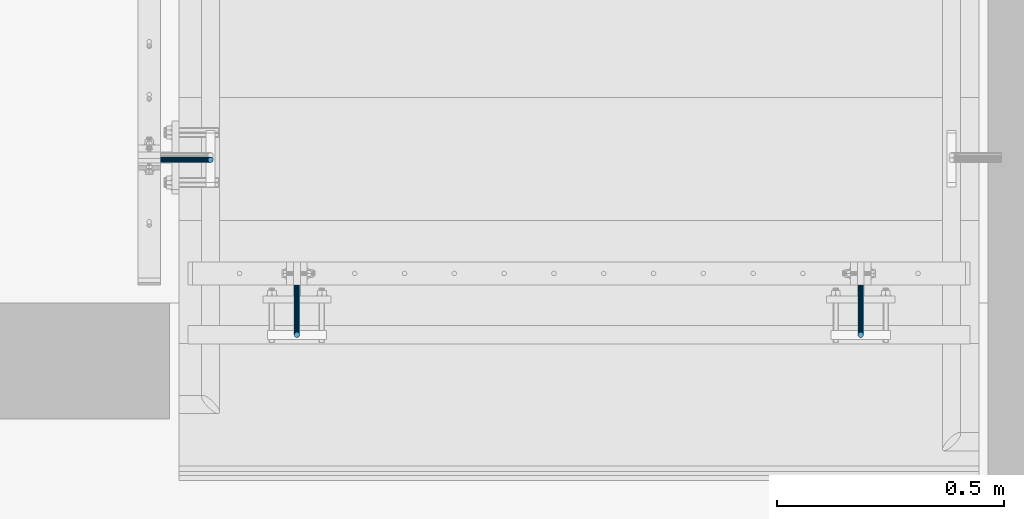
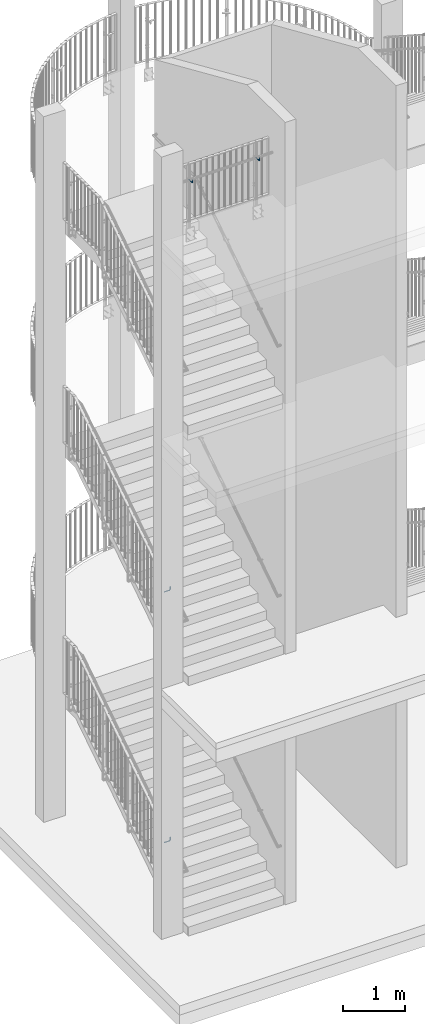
# One storey, part 128 of 296: 4 beams.
"""IFC2X3 building model written with IfcOpenShell, lengths in millimetres."""

from ifc_helpers import new_model, entity, si_unit, converted_unit, origin_with_axes, place, context, project, spatial, faceted_brep, material, element, save


model = new_model("IFC2X3")

# Units and contexts
model_context = context("Model", 3, precision=1e-09, world=origin_with_axes())
ifc_project = project(units=[si_unit("LENGTHUNIT", "METRE", prefix="MILLI"), si_unit("AREAUNIT", "SQUARE_METRE"), si_unit("VOLUMEUNIT", "CUBIC_METRE"), converted_unit("PLANEANGLEUNIT", "DEGREE", entity("IfcPlaneAngleMeasure", 0.01745329), si_unit("PLANEANGLEUNIT", "RADIAN"), dimensions=[0, 0, 0, 0, 0, 0, 0])], contexts=[model_context])

# Site, building, storey
site_placement = place(None, origin_with_axes())
site = spatial("IfcSite", under=ifc_project, at=site_placement, Name="TZD-S?d | Treppenhausgel?nder", CompositionType="ELEMENT")
building_placement = place(site_placement, origin_with_axes())
building = spatial("IfcBuilding", under=site, at=building_placement, Name="Struktur 1", CompositionType="ELEMENT")
storey_placement = place(building_placement, origin_with_axes())
storey = spatial("IfcBuildingStorey", under=building, at=storey_placement, Name="Default Storey", CompositionType="ELEMENT", Elevation=0.0)

# Beams
ifc_material = material(Name="S235JR")
beam_1_placement = place(None, origin_with_axes())
element("IfcBeam", 1, at=beam_1_placement, inside=storey, material=ifc_material, Name="-", ObjectType="-", context=model_context, shape_type="Brep", body=[
    faceted_brep([(1522.297514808, -3850.544277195, 14510.0), (1524.244054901, -3849.243640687, 14510.0), (1525.544691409, -3847.297100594, 14510.0), (1526.001414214, -3845.001, 14510.0), (1525.544691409, -3842.704899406, 14510.0), (1524.244054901, -3840.758359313, 14510.0), (1522.297514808, -3839.457722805, 14510.0), (1520.001414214, -3839.001, 14510.0), (1517.705313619, -3839.457722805, 14510.0), (1515.758773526, -3840.758359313, 14510.0), (1514.458137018, -3842.704899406, 14510.0), (1514.001414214, -3845.001, 14510.0), (1514.458137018, -3847.297100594, 14510.0), (1515.758773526, -3849.243640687, 14510.0), (1517.705313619, -3850.544277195, 14510.0), (1520.001414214, -3851.001, 14510.0), (1524.244054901, -3735.001, 14440.757359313), (1522.297514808, -3735.001, 14439.456722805), (1520.001414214, -3735.001, 14439.0), (1517.705313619, -3735.001, 14439.456722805), (1515.758773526, -3735.001, 14440.757359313), (1514.458137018, -3735.001, 14442.703899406), (1514.001414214, -3735.001, 14445.0), (1514.458137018, -3735.001, 14447.296100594), (1515.758773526, -3735.001, 14449.242640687), (1517.705313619, -3735.001, 14450.543277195), (1520.001414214, -3735.001, 14451.0), (1522.297514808, -3735.001, 14450.543277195), (1524.244054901, -3735.001, 14449.242640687), (1525.544691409, -3735.001, 14447.296100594), (1526.001414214, -3735.001, 14445.0), (1525.544691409, -3735.001, 14442.703899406), (1522.297514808, -3850.544277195, 14465.0), (1524.244054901, -3849.243640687, 14465.0), (1525.544691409, -3847.297100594, 14465.0), (1526.001414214, -3845.001, 14465.0), (1525.544691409, -3842.704899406, 14465.0), (1524.244054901, -3840.758359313, 14465.0), (1522.297514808, -3839.457722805, 14465.0), (1520.001414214, -3839.001, 14465.0), (1517.705313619, -3839.457722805, 14465.0), (1515.758773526, -3840.758359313, 14465.0), (1514.458137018, -3842.704899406, 14465.0), (1514.001414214, -3845.001, 14465.0), (1514.458137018, -3847.297100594, 14465.0), (1515.758773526, -3849.243640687, 14465.0), (1517.705313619, -3850.544277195, 14465.0), (1520.001414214, -3851.001, 14465.0), (1522.297514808, -3848.599910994, 14455.225011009), (1524.244054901, -3847.398279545, 14455.722743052), (1525.544691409, -3845.599910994, 14456.467651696), (1526.001414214, -3843.47859065, 14457.346331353), (1525.544691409, -3841.357270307, 14458.225011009), (1524.244054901, -3839.558901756, 14458.969919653), (1522.297514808, -3838.357270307, 14459.467651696), (1520.001414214, -3837.935313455, 14459.642431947), (1517.705313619, -3838.357270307, 14459.467651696), (1515.758773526, -3839.558901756, 14458.969919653), (1514.458137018, -3841.357270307, 14458.225011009), (1514.001414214, -3843.47859065, 14457.346331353), (1514.458137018, -3845.599910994, 14456.467651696), (1515.758773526, -3847.398279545, 14455.722743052), (1517.705313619, -3848.599910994, 14455.225011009), (1520.001414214, -3849.021867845, 14455.050230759), (1522.297514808, -3843.062824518, 14446.938175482), (1524.244054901, -3842.143135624, 14447.857864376), (1525.544691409, -3840.766723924, 14449.234276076), (1526.001414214, -3839.143135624, 14450.857864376), (1525.544691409, -3837.519547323, 14452.481452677), (1524.244054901, -3836.143135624, 14453.857864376), (1522.297514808, -3835.223446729, 14454.777553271), (1520.001414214, -3834.900494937, 14455.100505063), (1517.705313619, -3835.223446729, 14454.777553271), (1515.758773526, -3836.143135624, 14453.857864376), (1514.458137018, -3837.519547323, 14452.481452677), (1514.001414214, -3839.143135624, 14450.857864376), (1514.458137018, -3840.766723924, 14449.234276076), (1515.758773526, -3842.143135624, 14447.857864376), (1517.705313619, -3843.062824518, 14446.938175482), (1520.001414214, -3843.385776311, 14446.615223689), (1522.297514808, -3834.775988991, 14441.401089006), (1524.244054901, -3834.278256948, 14442.602720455), (1525.544691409, -3833.533348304, 14444.401089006), (1526.001414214, -3832.654668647, 14446.52240935), (1525.544691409, -3831.775988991, 14448.643729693), (1524.244054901, -3831.031080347, 14450.442098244), (1522.297514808, -3830.533348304, 14451.643729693), (1520.001414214, -3830.358568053, 14452.065686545), (1517.705313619, -3830.533348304, 14451.643729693), (1515.758773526, -3831.031080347, 14450.442098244), (1514.458137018, -3831.775988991, 14448.643729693), (1514.001414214, -3832.654668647, 14446.52240935), (1514.458137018, -3833.533348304, 14444.401089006), (1515.758773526, -3834.278256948, 14442.602720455), (1517.705313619, -3834.775988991, 14441.401089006), (1520.001414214, -3834.950769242, 14440.979132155), (1522.297514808, -3825.001, 14439.456722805), (1524.244054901, -3825.001, 14440.757359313), (1525.544691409, -3825.001, 14442.703899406), (1526.001414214, -3825.001, 14445.0), (1525.544691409, -3825.001, 14447.296100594), (1524.244054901, -3825.001, 14449.242640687), (1522.297514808, -3825.001, 14450.543277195), (1520.001414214, -3825.001, 14451.0), (1517.705313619, -3825.001, 14450.543277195), (1515.758773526, -3825.001, 14449.242640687), (1514.458137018, -3825.001, 14447.296100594), (1514.001414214, -3825.001, 14445.0), (1514.458137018, -3825.001, 14442.703899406), (1515.758773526, -3825.001, 14440.757359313), (1517.705313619, -3825.001, 14439.456722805), (1520.001414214, -3825.001, 14439.0)], [[[0, 1, 2, 3, 4, 5, 6, 7, 8, 9, 10, 11, 12, 13, 14, 15]], [[16, 17, 18, 19, 20, 21, 22, 23, 24, 25, 26, 27, 28, 29, 30, 31]], [[1, 0, 32, 33]], [[2, 1, 33, 34]], [[3, 2, 34, 35]], [[4, 3, 35, 36]], [[5, 4, 36, 37]], [[6, 5, 37, 38]], [[7, 6, 38, 39]], [[8, 7, 39, 40]], [[9, 8, 40, 41]], [[10, 9, 41, 42]], [[11, 10, 42, 43]], [[12, 11, 43, 44]], [[13, 12, 44, 45]], [[14, 13, 45, 46]], [[15, 14, 46, 47]], [[0, 15, 47, 32]], [[33, 32, 48, 49]], [[34, 33, 49, 50]], [[35, 34, 50, 51]], [[36, 35, 51, 52]], [[37, 36, 52, 53]], [[38, 37, 53, 54]], [[39, 38, 54, 55]], [[40, 39, 55, 56]], [[41, 40, 56, 57]], [[42, 41, 57, 58]], [[43, 42, 58, 59]], [[44, 43, 59, 60]], [[45, 44, 60, 61]], [[46, 45, 61, 62]], [[47, 46, 62, 63]], [[32, 47, 63, 48]], [[49, 48, 64, 65]], [[50, 49, 65, 66]], [[51, 50, 66, 67]], [[52, 51, 67, 68]], [[53, 52, 68, 69]], [[54, 53, 69, 70]], [[55, 54, 70, 71]], [[56, 55, 71, 72]], [[57, 56, 72, 73]], [[58, 57, 73, 74]], [[59, 58, 74, 75]], [[60, 59, 75, 76]], [[61, 60, 76, 77]], [[62, 61, 77, 78]], [[63, 62, 78, 79]], [[48, 63, 79, 64]], [[65, 64, 80, 81]], [[66, 65, 81, 82]], [[67, 66, 82, 83]], [[68, 67, 83, 84]], [[69, 68, 84, 85]], [[70, 69, 85, 86]], [[71, 70, 86, 87]], [[72, 71, 87, 88]], [[73, 72, 88, 89]], [[74, 73, 89, 90]], [[75, 74, 90, 91]], [[76, 75, 91, 92]], [[77, 76, 92, 93]], [[78, 77, 93, 94]], [[79, 78, 94, 95]], [[64, 79, 95, 80]], [[81, 80, 96, 97]], [[82, 81, 97, 98]], [[83, 82, 98, 99]], [[84, 83, 99, 100]], [[85, 84, 100, 101]], [[86, 85, 101, 102]], [[87, 86, 102, 103]], [[88, 87, 103, 104]], [[89, 88, 104, 105]], [[90, 89, 105, 106]], [[91, 90, 106, 107]], [[92, 91, 107, 108]], [[93, 92, 108, 109]], [[94, 93, 109, 110]], [[95, 94, 110, 111]], [[80, 95, 111, 96]], [[97, 96, 17, 16]], [[98, 97, 16, 31]], [[99, 98, 31, 30]], [[100, 99, 30, 29]], [[101, 100, 29, 28]], [[102, 101, 28, 27]], [[103, 102, 27, 26]], [[104, 103, 26, 25]], [[105, 104, 25, 24]], [[106, 105, 24, 23]], [[107, 106, 23, 22]], [[108, 107, 22, 21]], [[109, 108, 21, 20]], [[110, 109, 20, 19]], [[111, 110, 19, 18]], [[96, 111, 18, 17]]]),
])
beam_2_placement = place(None, origin_with_axes())
element("IfcBeam", 2, at=beam_2_placement, inside=storey, material=ifc_material, Name="-", ObjectType="-", context=model_context, shape_type="Brep", body=[
    faceted_brep([(275.7573593, -3849.243640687, 14510.0), (277.703899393, -3850.544277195, 14510.0), (279.999999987, -3851.001, 14510.0), (282.296100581, -3850.544277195, 14510.0), (284.242640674, -3849.243640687, 14510.0), (285.543277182, -3847.297100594, 14510.0), (285.999999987, -3845.001, 14510.0), (285.543277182, -3842.704899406, 14510.0), (284.242640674, -3840.758359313, 14510.0), (282.296100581, -3839.457722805, 14510.0), (279.999999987, -3839.001, 14510.0), (277.703899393, -3839.457722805, 14510.0), (275.7573593, -3840.758359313, 14510.0), (274.456722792, -3842.704899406, 14510.0), (273.999999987, -3845.001, 14510.0), (274.456722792, -3847.297100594, 14510.0), (277.703899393, -3735.001, 14439.456722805), (275.7573593, -3735.001, 14440.757359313), (274.456722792, -3735.001, 14442.703899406), (273.999999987, -3735.001, 14445.0), (274.456722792, -3735.001, 14447.296100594), (275.7573593, -3735.001, 14449.242640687), (277.703899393, -3735.001, 14450.543277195), (279.999999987, -3735.001, 14451.0), (282.296100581, -3735.001, 14450.543277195), (284.242640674, -3735.001, 14449.242640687), (285.543277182, -3735.001, 14447.296100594), (285.999999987, -3735.001, 14445.0), (285.543277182, -3735.001, 14442.703899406), (284.242640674, -3735.001, 14440.757359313), (282.296100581, -3735.001, 14439.456722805), (279.999999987, -3735.001, 14439.0), (275.7573593, -3849.243640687, 14465.0), (277.703899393, -3850.544277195, 14465.0), (274.456722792, -3847.297100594, 14465.0), (273.999999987, -3845.001, 14465.0), (274.456722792, -3842.704899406, 14465.0), (275.7573593, -3840.758359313, 14465.0), (277.703899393, -3839.457722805, 14465.0), (279.999999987, -3839.001, 14465.0), (282.296100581, -3839.457722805, 14465.0), (284.242640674, -3840.758359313, 14465.0), (285.543277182, -3842.704899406, 14465.0), (285.999999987, -3845.001, 14465.0), (285.543277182, -3847.297100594, 14465.0), (284.242640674, -3849.243640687, 14465.0), (282.296100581, -3850.544277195, 14465.0), (279.999999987, -3851.001, 14465.0), (275.7573593, -3847.398279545, 14455.722743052), (277.703899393, -3848.599910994, 14455.225011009), (274.456722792, -3845.599910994, 14456.467651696), (273.999999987, -3843.47859065, 14457.346331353), (274.456722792, -3841.357270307, 14458.225011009), (275.7573593, -3839.558901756, 14458.969919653), (277.703899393, -3838.357270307, 14459.467651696), (279.999999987, -3837.935313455, 14459.642431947), (282.296100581, -3838.357270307, 14459.467651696), (284.242640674, -3839.558901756, 14458.969919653), (285.543277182, -3841.357270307, 14458.225011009), (285.999999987, -3843.47859065, 14457.346331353), (285.543277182, -3845.599910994, 14456.467651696), (284.242640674, -3847.398279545, 14455.722743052), (282.296100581, -3848.599910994, 14455.225011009), (279.999999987, -3849.021867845, 14455.050230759), (275.7573593, -3842.143135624, 14447.857864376), (277.703899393, -3843.062824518, 14446.938175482), (274.456722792, -3840.766723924, 14449.234276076), (273.999999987, -3839.143135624, 14450.857864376), (274.456722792, -3837.519547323, 14452.481452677), (275.7573593, -3836.143135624, 14453.857864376), (277.703899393, -3835.223446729, 14454.777553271), (279.999999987, -3834.900494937, 14455.100505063), (282.296100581, -3835.223446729, 14454.777553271), (284.242640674, -3836.143135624, 14453.857864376), (285.543277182, -3837.519547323, 14452.481452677), (285.999999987, -3839.143135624, 14450.857864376), (285.543277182, -3840.766723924, 14449.234276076), (284.242640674, -3842.143135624, 14447.857864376), (282.296100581, -3843.062824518, 14446.938175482), (279.999999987, -3843.385776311, 14446.615223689), (275.7573593, -3834.278256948, 14442.602720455), (277.703899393, -3834.775988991, 14441.401089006), (274.456722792, -3833.533348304, 14444.401089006), (273.999999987, -3832.654668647, 14446.52240935), (274.456722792, -3831.775988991, 14448.643729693), (275.7573593, -3831.031080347, 14450.442098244), (277.703899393, -3830.533348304, 14451.643729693), (279.999999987, -3830.358568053, 14452.065686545), (282.296100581, -3830.533348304, 14451.643729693), (284.242640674, -3831.031080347, 14450.442098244), (285.543277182, -3831.775988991, 14448.643729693), (285.999999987, -3832.654668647, 14446.52240935), (285.543277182, -3833.533348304, 14444.401089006), (284.242640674, -3834.278256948, 14442.602720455), (282.296100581, -3834.775988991, 14441.401089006), (279.999999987, -3834.950769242, 14440.979132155), (275.7573593, -3825.001, 14440.757359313), (277.703899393, -3825.001, 14439.456722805), (274.456722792, -3825.001, 14442.703899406), (273.999999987, -3825.001, 14445.0), (274.456722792, -3825.001, 14447.296100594), (275.7573593, -3825.001, 14449.242640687), (277.703899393, -3825.001, 14450.543277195), (279.999999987, -3825.001, 14451.0), (282.296100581, -3825.001, 14450.543277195), (284.242640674, -3825.001, 14449.242640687), (285.543277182, -3825.001, 14447.296100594), (285.999999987, -3825.001, 14445.0), (285.543277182, -3825.001, 14442.703899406), (284.242640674, -3825.001, 14440.757359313), (282.296100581, -3825.001, 14439.456722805), (279.999999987, -3825.001, 14439.0)], [[[0, 1, 2, 3, 4, 5, 6, 7, 8, 9, 10, 11, 12, 13, 14, 15]], [[16, 17, 18, 19, 20, 21, 22, 23, 24, 25, 26, 27, 28, 29, 30, 31]], [[1, 0, 32, 33]], [[0, 15, 34, 32]], [[15, 14, 35, 34]], [[14, 13, 36, 35]], [[13, 12, 37, 36]], [[12, 11, 38, 37]], [[11, 10, 39, 38]], [[10, 9, 40, 39]], [[9, 8, 41, 40]], [[8, 7, 42, 41]], [[7, 6, 43, 42]], [[6, 5, 44, 43]], [[5, 4, 45, 44]], [[4, 3, 46, 45]], [[3, 2, 47, 46]], [[2, 1, 33, 47]], [[33, 32, 48, 49]], [[32, 34, 50, 48]], [[34, 35, 51, 50]], [[35, 36, 52, 51]], [[36, 37, 53, 52]], [[37, 38, 54, 53]], [[38, 39, 55, 54]], [[39, 40, 56, 55]], [[40, 41, 57, 56]], [[41, 42, 58, 57]], [[42, 43, 59, 58]], [[43, 44, 60, 59]], [[44, 45, 61, 60]], [[45, 46, 62, 61]], [[46, 47, 63, 62]], [[47, 33, 49, 63]], [[49, 48, 64, 65]], [[48, 50, 66, 64]], [[50, 51, 67, 66]], [[51, 52, 68, 67]], [[52, 53, 69, 68]], [[53, 54, 70, 69]], [[54, 55, 71, 70]], [[55, 56, 72, 71]], [[56, 57, 73, 72]], [[57, 58, 74, 73]], [[58, 59, 75, 74]], [[59, 60, 76, 75]], [[60, 61, 77, 76]], [[61, 62, 78, 77]], [[62, 63, 79, 78]], [[63, 49, 65, 79]], [[65, 64, 80, 81]], [[64, 66, 82, 80]], [[66, 67, 83, 82]], [[67, 68, 84, 83]], [[68, 69, 85, 84]], [[69, 70, 86, 85]], [[70, 71, 87, 86]], [[71, 72, 88, 87]], [[72, 73, 89, 88]], [[73, 74, 90, 89]], [[74, 75, 91, 90]], [[75, 76, 92, 91]], [[76, 77, 93, 92]], [[77, 78, 94, 93]], [[78, 79, 95, 94]], [[79, 65, 81, 95]], [[81, 80, 96, 97]], [[80, 82, 98, 96]], [[82, 83, 99, 98]], [[83, 84, 100, 99]], [[84, 85, 101, 100]], [[85, 86, 102, 101]], [[86, 87, 103, 102]], [[87, 88, 104, 103]], [[88, 89, 105, 104]], [[89, 90, 106, 105]], [[90, 91, 107, 106]], [[91, 92, 108, 107]], [[92, 93, 109, 108]], [[93, 94, 110, 109]], [[94, 95, 111, 110]], [[95, 81, 97, 111]], [[97, 96, 17, 16]], [[96, 98, 18, 17]], [[98, 99, 19, 18]], [[99, 100, 20, 19]], [[100, 101, 21, 20]], [[101, 102, 22, 21]], [[102, 103, 23, 22]], [[103, 104, 24, 23]], [[104, 105, 25, 24]], [[105, 106, 26, 25]], [[106, 107, 27, 26]], [[107, 108, 28, 27]], [[108, 109, 29, 28]], [[109, 110, 30, 29]], [[110, 111, 31, 30]], [[111, 97, 16, 31]]]),
])
beam_3_placement = place(None, origin_with_axes())
element("IfcBeam", 3, at=beam_3_placement, inside=storey, material=ifc_material, Name="-", ObjectType="-", context=model_context, shape_type="Brep", body=[
    faceted_brep([(86.893577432, -3454.998162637, 1485.782661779), (93.106422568, -3454.998162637, 1485.782661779), (92.296100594, -3454.456722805, 1485.782661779), (90.0, -3454.0, 1485.782661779), (87.703899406, -3454.456722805, 1485.782661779), (95.543277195, -3462.296100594, 1481.048032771), (94.242640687, -3464.242640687, 1479.785190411), (94.242640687, -3464.242640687, 1440.782661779), (95.543277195, -3462.296100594, 1440.782661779), (92.296100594, -3465.543277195, 1478.941386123), (92.296100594, -3465.543277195, 1440.782661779), (90.0, -3466.0, 1478.645081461), (90.0, -3466.0, 1440.782661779), (87.703899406, -3465.543277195, 1478.941386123), (87.703899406, -3465.543277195, 1440.782661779), (85.757359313, -3464.242640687, 1479.785190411), (85.757359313, -3464.242640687, 1440.782661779), (84.456722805, -3462.296100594, 1481.048032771), (84.456722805, -3462.296100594, 1440.782661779), (84.0, -3460.0, 1482.537656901), (84.0, -3460.0, 1440.782661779), (84.456722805, -3457.703899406, 1484.02728103), (84.456722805, -3457.703899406, 1440.782661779), (85.757359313, -3455.757359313, 1485.29012339), (85.757359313, -3455.757359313, 1440.782661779), (87.703899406, -3454.456722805, 1440.782661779), (90.0, -3454.0, 1440.782661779), (92.296100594, -3454.456722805, 1440.782661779), (94.242640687, -3455.757359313, 1485.29012339), (94.242640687, -3455.757359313, 1440.782661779), (95.543277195, -3457.703899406, 1484.02728103), (95.543277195, -3457.703899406, 1440.782661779), (96.0, -3460.0, 1482.537656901), (96.0, -3460.0, 1440.782661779), (-20.0, -3462.296100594, 1415.239384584), (-20.0, -3464.242640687, 1416.540021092), (-20.0, -3465.543277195, 1418.486561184), (-20.0, -3466.0, 1420.782661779), (-20.0, -3465.543277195, 1423.078762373), (-20.0, -3464.242640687, 1425.025302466), (-20.0, -3462.296100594, 1426.325938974), (-20.0, -3460.0, 1426.782661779), (-20.0, -3457.703899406, 1426.325938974), (-20.0, -3455.757359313, 1425.025302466), (-20.0, -3454.456722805, 1423.078762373), (-20.0, -3454.0, 1420.782661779), (-20.0, -3454.456722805, 1418.486561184), (-20.0, -3455.757359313, 1416.540021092), (-20.0, -3457.703899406, 1415.239384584), (-20.0, -3460.0, 1414.782661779), (92.397279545, -3464.242640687, 1431.505404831), (93.598910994, -3462.296100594, 1431.007672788), (90.598910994, -3465.543277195, 1432.250313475), (88.47759065, -3466.0, 1433.128993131), (86.356270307, -3465.543277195, 1434.007672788), (84.557901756, -3464.242640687, 1434.752581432), (83.356270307, -3462.296100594, 1435.250313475), (82.934313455, -3460.0, 1435.425093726), (83.356270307, -3457.703899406, 1435.250313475), (84.557901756, -3455.757359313, 1434.752581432), (86.356270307, -3454.456722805, 1434.007672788), (88.47759065, -3454.0, 1433.128993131), (90.598910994, -3454.456722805, 1432.250313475), (92.397279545, -3455.757359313, 1431.505404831), (93.598910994, -3457.703899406, 1431.007672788), (94.020867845, -3460.0, 1430.832892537), (87.142135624, -3464.242640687, 1423.640526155), (88.061824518, -3462.296100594, 1422.72083726), (85.765723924, -3465.543277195, 1425.016937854), (84.142135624, -3466.0, 1426.640526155), (82.518547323, -3465.543277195, 1428.264114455), (81.142135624, -3464.242640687, 1429.640526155), (80.222446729, -3462.296100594, 1430.56021505), (79.899494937, -3460.0, 1430.883166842), (80.222446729, -3457.703899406, 1430.56021505), (81.142135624, -3455.757359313, 1429.640526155), (82.518547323, -3454.456722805, 1428.264114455), (84.142135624, -3454.0, 1426.640526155), (85.765723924, -3454.456722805, 1425.016937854), (87.142135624, -3455.757359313, 1423.640526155), (88.061824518, -3457.703899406, 1422.72083726), (88.384776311, -3460.0, 1422.397885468), (79.277256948, -3464.242640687, 1418.385382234), (79.774988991, -3462.296100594, 1417.183750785), (78.532348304, -3465.543277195, 1420.183750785), (77.653668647, -3466.0, 1422.305071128), (76.774988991, -3465.543277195, 1424.426391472), (76.030080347, -3464.242640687, 1426.224760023), (75.532348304, -3462.296100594, 1427.426391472), (75.357568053, -3460.0, 1427.848348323), (75.532348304, -3457.703899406, 1427.426391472), (76.030080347, -3455.757359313, 1426.224760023), (76.774988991, -3454.456722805, 1424.426391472), (77.653668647, -3454.0, 1422.305071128), (78.532348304, -3454.456722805, 1420.183750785), (79.277256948, -3455.757359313, 1418.385382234), (79.774988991, -3457.703899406, 1417.183750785), (79.949769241, -3460.0, 1416.761793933), (70.0, -3464.242640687, 1416.540021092), (70.0, -3462.296100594, 1415.239384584), (70.0, -3465.543277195, 1418.486561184), (70.0, -3466.0, 1420.782661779), (70.0, -3465.543277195, 1423.078762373), (70.0, -3464.242640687, 1425.025302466), (70.0, -3462.296100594, 1426.325938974), (70.0, -3460.0, 1426.782661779), (70.0, -3457.703899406, 1426.325938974), (70.0, -3455.757359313, 1425.025302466), (70.0, -3454.456722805, 1423.078762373), (70.0, -3454.0, 1420.782661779), (70.0, -3454.456722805, 1418.486561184), (70.0, -3455.757359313, 1416.540021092), (70.0, -3457.703899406, 1415.239384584), (70.0, -3460.0, 1414.782661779)], [[[0, 1, 2, 3, 4]], [[5, 6, 7, 8]], [[6, 9, 10, 7]], [[9, 11, 12, 10]], [[11, 13, 14, 12]], [[13, 15, 16, 14]], [[15, 17, 18, 16]], [[17, 19, 20, 18]], [[19, 21, 22, 20]], [[21, 23, 24, 22]], [[23, 0, 4, 25, 24]], [[4, 3, 26, 25]], [[3, 2, 27, 26]], [[1, 28, 29, 27, 2]], [[28, 30, 31, 29]], [[30, 32, 33, 31]], [[32, 5, 8, 33]], [[19, 17, 15, 13, 11, 9, 6, 5, 32, 30, 28, 1, 0, 23, 21]], [[34, 35, 36, 37, 38, 39, 40, 41, 42, 43, 44, 45, 46, 47, 48, 49]], [[8, 7, 50, 51]], [[7, 10, 52, 50]], [[10, 12, 53, 52]], [[12, 14, 54, 53]], [[14, 16, 55, 54]], [[16, 18, 56, 55]], [[18, 20, 57, 56]], [[20, 22, 58, 57]], [[22, 24, 59, 58]], [[24, 25, 60, 59]], [[25, 26, 61, 60]], [[26, 27, 62, 61]], [[27, 29, 63, 62]], [[29, 31, 64, 63]], [[31, 33, 65, 64]], [[33, 8, 51, 65]], [[51, 50, 66, 67]], [[50, 52, 68, 66]], [[52, 53, 69, 68]], [[53, 54, 70, 69]], [[54, 55, 71, 70]], [[55, 56, 72, 71]], [[56, 57, 73, 72]], [[57, 58, 74, 73]], [[58, 59, 75, 74]], [[59, 60, 76, 75]], [[60, 61, 77, 76]], [[61, 62, 78, 77]], [[62, 63, 79, 78]], [[63, 64, 80, 79]], [[64, 65, 81, 80]], [[65, 51, 67, 81]], [[67, 66, 82, 83]], [[66, 68, 84, 82]], [[68, 69, 85, 84]], [[69, 70, 86, 85]], [[70, 71, 87, 86]], [[71, 72, 88, 87]], [[72, 73, 89, 88]], [[73, 74, 90, 89]], [[74, 75, 91, 90]], [[75, 76, 92, 91]], [[76, 77, 93, 92]], [[77, 78, 94, 93]], [[78, 79, 95, 94]], [[79, 80, 96, 95]], [[80, 81, 97, 96]], [[81, 67, 83, 97]], [[83, 82, 98, 99]], [[82, 84, 100, 98]], [[84, 85, 101, 100]], [[85, 86, 102, 101]], [[86, 87, 103, 102]], [[87, 88, 104, 103]], [[88, 89, 105, 104]], [[89, 90, 106, 105]], [[90, 91, 107, 106]], [[91, 92, 108, 107]], [[92, 93, 109, 108]], [[93, 94, 110, 109]], [[94, 95, 111, 110]], [[95, 96, 112, 111]], [[96, 97, 113, 112]], [[97, 83, 99, 113]], [[99, 98, 35, 34]], [[98, 100, 36, 35]], [[100, 101, 37, 36]], [[101, 102, 38, 37]], [[102, 103, 39, 38]], [[103, 104, 40, 39]], [[104, 105, 41, 40]], [[105, 106, 42, 41]], [[106, 107, 43, 42]], [[107, 108, 44, 43]], [[108, 109, 45, 44]], [[109, 110, 46, 45]], [[110, 111, 47, 46]], [[111, 112, 48, 47]], [[112, 113, 49, 48]], [[113, 99, 34, 49]]]),
])
beam_4_placement = place(None, origin_with_axes())
element("IfcBeam", 4, at=beam_4_placement, inside=storey, material=ifc_material, Name="-", ObjectType="-", context=model_context, shape_type="Brep", body=[
    faceted_brep([(86.893587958, -3454.998155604, 6385.998562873), (93.106412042, -3454.998155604, 6385.998562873), (92.296100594, -3454.456722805, 6385.998562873), (90.0, -3454.0, 6385.998562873), (87.703899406, -3454.456722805, 6385.998562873), (95.543277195, -3462.296100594, 6381.289520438), (94.242640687, -3464.242640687, 6380.033503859), (94.242640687, -3464.242640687, 6340.998562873), (95.543277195, -3462.296100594, 6340.998562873), (92.296100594, -3465.543277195, 6379.194260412), (92.296100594, -3465.543277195, 6340.998562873), (90.0, -3466.0, 6378.899557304), (90.0, -3466.0, 6340.998562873), (87.703899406, -3465.543277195, 6379.194260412), (87.703899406, -3465.543277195, 6340.998562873), (85.757359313, -3464.242640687, 6380.033503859), (85.757359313, -3464.242640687, 6340.998562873), (84.456722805, -3462.296100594, 6381.289520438), (84.456722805, -3462.296100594, 6340.998562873), (84.0, -3460.0, 6382.771093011), (84.0, -3460.0, 6340.998562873), (84.456722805, -3457.703899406, 6384.252665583), (84.456722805, -3457.703899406, 6340.998562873), (85.757359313, -3455.757359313, 6385.508682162), (85.757359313, -3455.757359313, 6340.998562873), (87.703899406, -3454.456722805, 6340.998562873), (90.0, -3454.0, 6340.998562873), (92.296100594, -3454.456722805, 6340.998562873), (94.242640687, -3455.757359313, 6385.508682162), (94.242640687, -3455.757359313, 6340.998562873), (95.543277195, -3457.703899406, 6384.252665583), (95.543277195, -3457.703899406, 6340.998562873), (96.0, -3460.0, 6382.771093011), (96.0, -3460.0, 6340.998562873), (-20.0, -3462.296100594, 6315.455285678), (-20.0, -3464.242640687, 6316.755922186), (-20.0, -3465.543277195, 6318.702462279), (-20.0, -3466.0, 6320.998562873), (-20.0, -3465.543277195, 6323.294663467), (-20.0, -3464.242640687, 6325.24120356), (-20.0, -3462.296100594, 6326.541840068), (-20.0, -3460.0, 6326.998562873), (-20.0, -3457.703899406, 6326.541840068), (-20.0, -3455.757359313, 6325.24120356), (-20.0, -3454.456722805, 6323.294663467), (-20.0, -3454.0, 6320.998562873), (-20.0, -3454.456722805, 6318.702462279), (-20.0, -3455.757359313, 6316.755922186), (-20.0, -3457.703899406, 6315.455285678), (-20.0, -3460.0, 6314.998562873), (92.397279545, -3464.242640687, 6331.721305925), (93.598910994, -3462.296100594, 6331.223573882), (90.598910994, -3465.543277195, 6332.466214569), (88.47759065, -3466.0, 6333.344894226), (86.356270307, -3465.543277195, 6334.223573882), (84.557901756, -3464.242640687, 6334.968482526), (83.356270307, -3462.296100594, 6335.466214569), (82.934313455, -3460.0, 6335.64099482), (83.356270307, -3457.703899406, 6335.466214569), (84.557901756, -3455.757359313, 6334.968482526), (86.356270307, -3454.456722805, 6334.223573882), (88.47759065, -3454.0, 6333.344894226), (90.598910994, -3454.456722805, 6332.466214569), (92.397279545, -3455.757359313, 6331.721305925), (93.598910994, -3457.703899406, 6331.223573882), (94.020867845, -3460.0, 6331.048793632), (87.142135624, -3464.242640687, 6323.856427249), (88.061824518, -3462.296100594, 6322.936738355), (85.765723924, -3465.543277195, 6325.232838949), (84.142135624, -3466.0, 6326.856427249), (82.518547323, -3465.543277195, 6328.48001555), (81.142135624, -3464.242640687, 6329.856427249), (80.222446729, -3462.296100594, 6330.776116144), (79.899494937, -3460.0, 6331.099067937), (80.222446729, -3457.703899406, 6330.776116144), (81.142135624, -3455.757359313, 6329.856427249), (82.518547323, -3454.456722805, 6328.48001555), (84.142135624, -3454.0, 6326.856427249), (85.765723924, -3454.456722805, 6325.232838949), (87.142135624, -3455.757359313, 6323.856427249), (88.061824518, -3457.703899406, 6322.936738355), (88.384776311, -3460.0, 6322.613786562), (79.277256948, -3464.242640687, 6318.601283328), (79.774988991, -3462.296100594, 6317.399651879), (78.532348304, -3465.543277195, 6320.399651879), (77.653668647, -3466.0, 6322.520972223), (76.774988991, -3465.543277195, 6324.642292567), (76.030080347, -3464.242640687, 6326.440661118), (75.532348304, -3462.296100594, 6327.642292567), (75.357568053, -3460.0, 6328.064249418), (75.532348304, -3457.703899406, 6327.642292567), (76.030080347, -3455.757359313, 6326.440661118), (76.774988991, -3454.456722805, 6324.642292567), (77.653668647, -3454.0, 6322.520972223), (78.532348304, -3454.456722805, 6320.399651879), (79.277256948, -3455.757359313, 6318.601283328), (79.774988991, -3457.703899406, 6317.399651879), (79.949769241, -3460.0, 6316.977695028), (70.0, -3464.242640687, 6316.755922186), (70.0, -3462.296100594, 6315.455285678), (70.0, -3465.543277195, 6318.702462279), (70.0, -3466.0, 6320.998562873), (70.0, -3465.543277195, 6323.294663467), (70.0, -3464.242640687, 6325.24120356), (70.0, -3462.296100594, 6326.541840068), (70.0, -3460.0, 6326.998562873), (70.0, -3457.703899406, 6326.541840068), (70.0, -3455.757359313, 6325.24120356), (70.0, -3454.456722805, 6323.294663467), (70.0, -3454.0, 6320.998562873), (70.0, -3454.456722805, 6318.702462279), (70.0, -3455.757359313, 6316.755922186), (70.0, -3457.703899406, 6315.455285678), (70.0, -3460.0, 6314.998562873)], [[[0, 1, 2, 3, 4]], [[5, 6, 7, 8]], [[6, 9, 10, 7]], [[9, 11, 12, 10]], [[11, 13, 14, 12]], [[13, 15, 16, 14]], [[15, 17, 18, 16]], [[17, 19, 20, 18]], [[19, 21, 22, 20]], [[21, 23, 24, 22]], [[23, 0, 4, 25, 24]], [[4, 3, 26, 25]], [[3, 2, 27, 26]], [[1, 28, 29, 27, 2]], [[28, 30, 31, 29]], [[30, 32, 33, 31]], [[32, 5, 8, 33]], [[19, 17, 15, 13, 11, 9, 6, 5, 32, 30, 28, 1, 0, 23, 21]], [[34, 35, 36, 37, 38, 39, 40, 41, 42, 43, 44, 45, 46, 47, 48, 49]], [[8, 7, 50, 51]], [[7, 10, 52, 50]], [[10, 12, 53, 52]], [[12, 14, 54, 53]], [[14, 16, 55, 54]], [[16, 18, 56, 55]], [[18, 20, 57, 56]], [[20, 22, 58, 57]], [[22, 24, 59, 58]], [[24, 25, 60, 59]], [[25, 26, 61, 60]], [[26, 27, 62, 61]], [[27, 29, 63, 62]], [[29, 31, 64, 63]], [[31, 33, 65, 64]], [[33, 8, 51, 65]], [[51, 50, 66, 67]], [[50, 52, 68, 66]], [[52, 53, 69, 68]], [[53, 54, 70, 69]], [[54, 55, 71, 70]], [[55, 56, 72, 71]], [[56, 57, 73, 72]], [[57, 58, 74, 73]], [[58, 59, 75, 74]], [[59, 60, 76, 75]], [[60, 61, 77, 76]], [[61, 62, 78, 77]], [[62, 63, 79, 78]], [[63, 64, 80, 79]], [[64, 65, 81, 80]], [[65, 51, 67, 81]], [[67, 66, 82, 83]], [[66, 68, 84, 82]], [[68, 69, 85, 84]], [[69, 70, 86, 85]], [[70, 71, 87, 86]], [[71, 72, 88, 87]], [[72, 73, 89, 88]], [[73, 74, 90, 89]], [[74, 75, 91, 90]], [[75, 76, 92, 91]], [[76, 77, 93, 92]], [[77, 78, 94, 93]], [[78, 79, 95, 94]], [[79, 80, 96, 95]], [[80, 81, 97, 96]], [[81, 67, 83, 97]], [[83, 82, 98, 99]], [[82, 84, 100, 98]], [[84, 85, 101, 100]], [[85, 86, 102, 101]], [[86, 87, 103, 102]], [[87, 88, 104, 103]], [[88, 89, 105, 104]], [[89, 90, 106, 105]], [[90, 91, 107, 106]], [[91, 92, 108, 107]], [[92, 93, 109, 108]], [[93, 94, 110, 109]], [[94, 95, 111, 110]], [[95, 96, 112, 111]], [[96, 97, 113, 112]], [[97, 83, 99, 113]], [[99, 98, 35, 34]], [[98, 100, 36, 35]], [[100, 101, 37, 36]], [[101, 102, 38, 37]], [[102, 103, 39, 38]], [[103, 104, 40, 39]], [[104, 105, 41, 40]], [[105, 106, 42, 41]], [[106, 107, 43, 42]], [[107, 108, 44, 43]], [[108, 109, 45, 44]], [[109, 110, 46, 45]], [[110, 111, 47, 46]], [[111, 112, 48, 47]], [[112, 113, 49, 48]], [[113, 99, 34, 49]]]),
])

save(model, "model.ifc")
